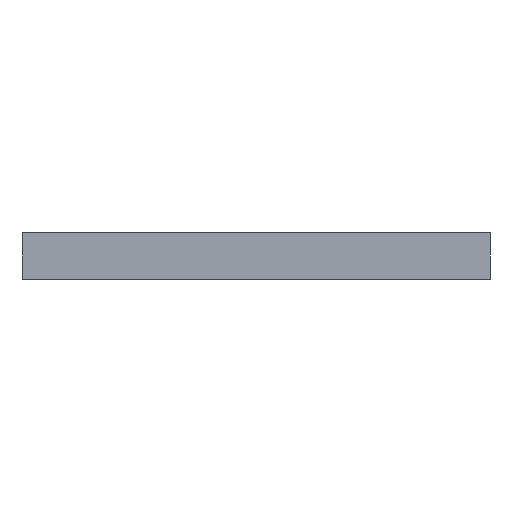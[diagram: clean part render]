
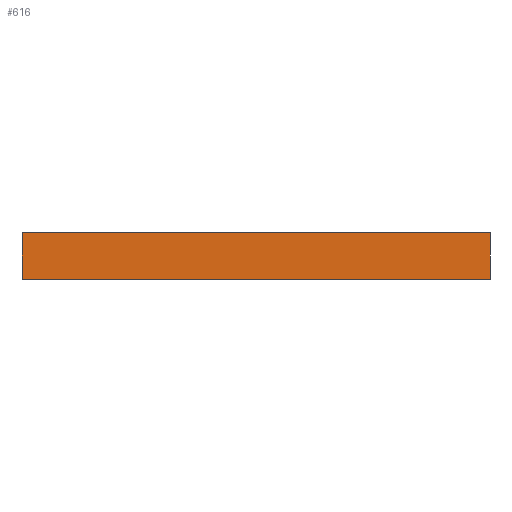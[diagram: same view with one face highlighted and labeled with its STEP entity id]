
A CAD part, left-side view. The second image highlights one B-rep face of the part: STEP entity #616.
In plain terms, the highlighted planar face has unit normal (-1, 0, 0).
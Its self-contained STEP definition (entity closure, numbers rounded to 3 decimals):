
#560=CARTESIAN_POINT('',(-210.,-40.,8.0));
#561=VERTEX_POINT('',#560);
#568=CARTESIAN_POINT('',(-210.,-40.,0.0));
#569=VERTEX_POINT('',#568);
#570=CARTESIAN_POINT('',(-210.,-40.,0.0));
#571=DIRECTION('',(0.0,0.0,1.0));
#572=VECTOR('',#571,8.0);
#573=LINE('',#570,#572);
#574=EDGE_CURVE('',#569,#561,#573,.T.);
#586=CARTESIAN_POINT('',(-210.,-40.,0.0));
#587=DIRECTION('',(-1.0,0.0,0.0));
#588=DIRECTION('',(0.0,0.0,1.0));
#589=AXIS2_PLACEMENT_3D('',#586,#587,#588);
#590=PLANE('',#589);
#591=CARTESIAN_POINT('',(-210.0,40.,8.0));
#592=VERTEX_POINT('',#591);
#593=CARTESIAN_POINT('',(-210.,-40.,8.0));
#594=DIRECTION('',(0.0,1.0,0.0));
#595=VECTOR('',#594,80.);
#596=LINE('',#593,#595);
#597=EDGE_CURVE('',#561,#592,#596,.T.);
#598=ORIENTED_EDGE('',*,*,#597,.T.);
#599=CARTESIAN_POINT('',(-210.0,40.,0.0));
#600=VERTEX_POINT('',#599);
#601=CARTESIAN_POINT('',(-210.0,40.,0.0));
#602=DIRECTION('',(0.0,0.0,1.0));
#603=VECTOR('',#602,8.0);
#604=LINE('',#601,#603);
#605=EDGE_CURVE('',#600,#592,#604,.T.);
#606=ORIENTED_EDGE('',*,*,#605,.F.);
#607=CARTESIAN_POINT('',(-210.,-40.,0.0));
#608=DIRECTION('',(0.0,1.0,0.0));
#609=VECTOR('',#608,80.);
#610=LINE('',#607,#609);
#611=EDGE_CURVE('',#569,#600,#610,.T.);
#612=ORIENTED_EDGE('',*,*,#611,.F.);
#613=ORIENTED_EDGE('',*,*,#574,.T.);
#614=EDGE_LOOP('',(#598,#606,#612,#613));
#615=FACE_OUTER_BOUND('',#614,.T.);
#616=ADVANCED_FACE('',(#615),#590,.T.);
